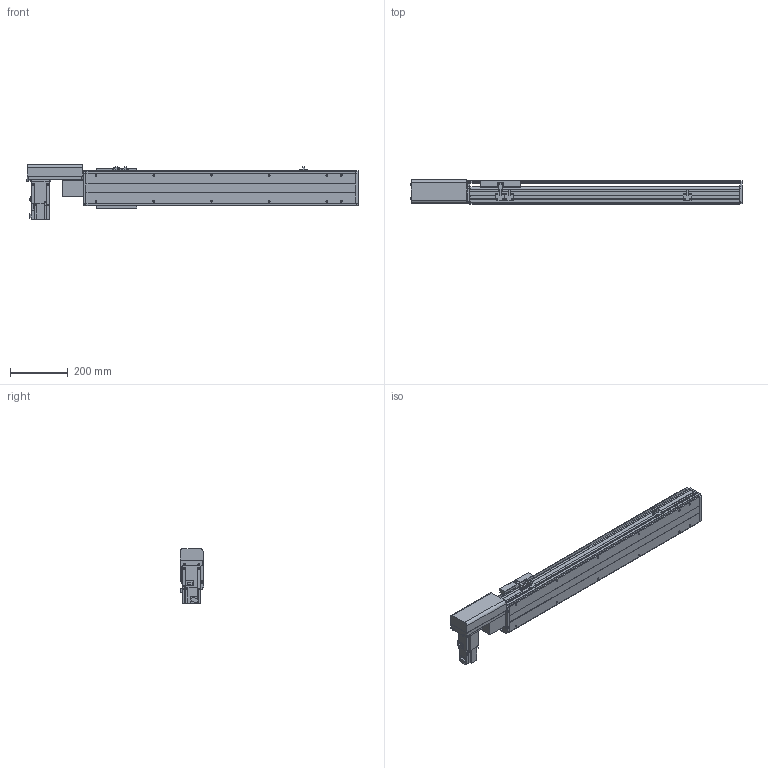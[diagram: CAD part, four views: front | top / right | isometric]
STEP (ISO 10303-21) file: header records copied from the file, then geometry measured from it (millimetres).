
FILE_DESCRIPTION( ( 'STEP AP214' ), '1' );
FILE_NAME( 'x:/temp/worker_27/temp/exporttempdir_6708_7_yQgFF/format_0/PBS120-P40-S650-R-T40-C1-N(0).stp', '2022-06-06T00:05:56', ( 'License CC BY-ND 4.0' ), ( 'CADENAS' ), ' ', 'PARTsolutions', ' ' );
FILE_SCHEMA( ( 'AUTOMOTIVE_DESIGN { 1 0 10303 214 1 1 1 1 }' ) );
Length unit declared in the file: millimetre
Products named in the file (7): PBS120-P40-S650-R-T40-C1-N(0); _PBS120-S650()_body; _PBS120T-R_motors; _T40-p1; _PBS120_sliser; _PBS120_plant; _PBS120_sensor
Assembly tree (8 placements, depth 2):
  PBS120-P40-S650-R-T40-C1-N(0)
    _PBS120-S650()_body
    _PBS120T-R_motors
    _T40-p1
    _PBS120_sliser
    _PBS120_plant
    _PBS120_sensor  x3
Bounding box: 1151 x 83 x 189.7 mm (x, y, z)
Volume: 4821851.7 mm3; surface area: 912546.3 mm2
Topology: 8 solids, 8 shells, 816 faces, 2136 edges, 1375 vertices
Faces by surface type: plane 545, cylinder 225, cone 44, torus 2
Full cylindrical faces by diameter (mm): 2.459 x6, 3.242 x4, 4 x2, 4.134 x4, 4.5 x10, 4.917 x16, 5.5 x11, 6 x2, 6.6 x1, 7 x2, 8.5 x4, 9 x4, 12 x1, 14 x1, 30 x2, 40 x1, 50 x2
Entity records: 26988 total; most frequent: DIRECTION 3692, CARTESIAN_POINT 3641, ORIENTED_EDGE 3478, EDGE_CURVE 1739, AXIS2_PLACEMENT_3D 1232, LINE 1228, VECTOR 1228, VERTEX_POINT 1181
